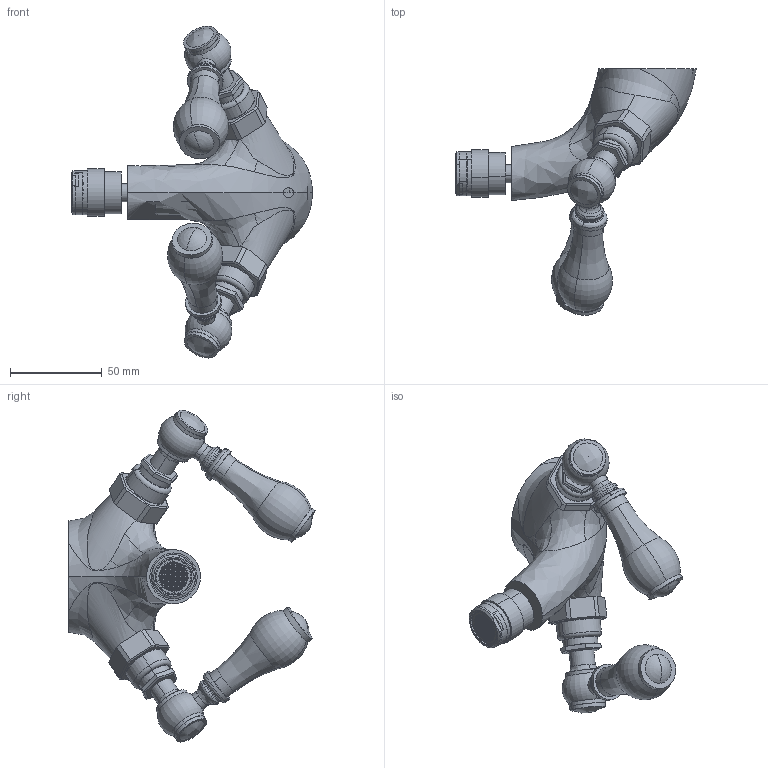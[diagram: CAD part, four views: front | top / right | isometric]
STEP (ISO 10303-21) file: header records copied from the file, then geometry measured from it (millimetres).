
FILE_DESCRIPTION (( 'STEP AP214' ), '1' );
FILE_NAME ('55412010 x architetti.STEP', '2024-11-11T09:01:09', ( '' ), ( '' ), 'SwSTEP 2.0', 'SolidWorks 2020', '' );
FILE_SCHEMA (( 'AUTOMOTIVE_DESIGN' ));
Length unit declared in the file: millimetre
Products named in the file (1): 55412010 x architetti
Bounding box: 131 x 134.13 x 180.7 mm (x, y, z)
Volume: 233376.6 mm3; surface area: 83183.2 mm2
Topology: 5 solids, 24 shells, 1702 faces, 4787 edges, 3147 vertices
Faces by surface type: plane 1187, cylinder 278, bspline 128, cone 77, torus 32
Entity records: 183795 total; most frequent: CARTESIAN_POINT 123820, ORIENTED_EDGE 9526, DIRECTION 7365, EDGE_CURVE 4763, VERTEX_POINT 3147, VECTOR 2597, LINE 2597, AXIS2_PLACEMENT_3D 2384
